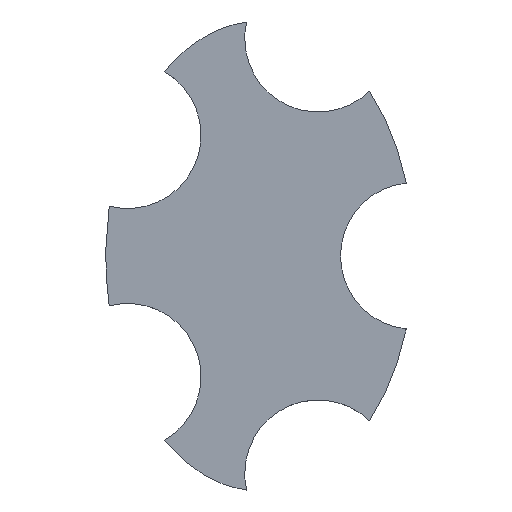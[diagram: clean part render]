
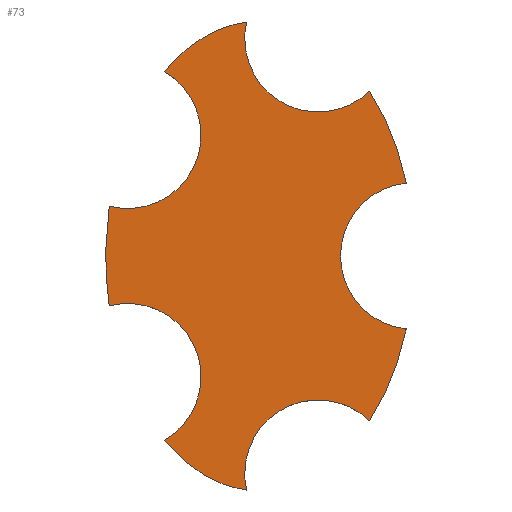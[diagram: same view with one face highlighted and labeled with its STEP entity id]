
A CAD part, top view. The second image highlights one B-rep face of the part: STEP entity #73.
In plain terms, the highlighted planar face has unit normal (0, 0, 1).
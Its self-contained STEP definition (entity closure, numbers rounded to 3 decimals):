
#16 = AXIS2_PLACEMENT_3D ( 'NONE', #384, #435, #436 ) ;
#18 = AXIS2_PLACEMENT_3D ( 'NONE', #239, #238, #237 ) ;
#19 = AXIS2_PLACEMENT_3D ( 'NONE', #148, #147, #146 ) ;
#22 = CIRCLE ( 'NONE', #19, 5. ) ;
#23 = AXIS2_PLACEMENT_3D ( 'NONE', #157, #156, #154 ) ;
#25 = AXIS2_PLACEMENT_3D ( 'NONE', #466, #371, #394 ) ;
#27 = CIRCLE ( 'NONE', #40, 5. ) ;
#28 = CIRCLE ( 'NONE', #23, 5. ) ;
#30 = AXIS2_PLACEMENT_3D ( 'NONE', #342, #341, #339 ) ;
#34 = AXIS2_PLACEMENT_3D ( 'NONE', #186, #185, #184 ) ;
#39 = CIRCLE ( 'NONE', #34, 5. ) ;
#40 = AXIS2_PLACEMENT_3D ( 'NONE', #297, #296, #295 ) ;
#42 = CIRCLE ( 'NONE', #25, 5. ) ;
#45 = CIRCLE ( 'NONE', #18, 5. ) ;
#47 = CIRCLE ( 'NONE', #30, 5. ) ;
#50 = AXIS2_PLACEMENT_3D ( 'NONE', #381, #380, #379 ) ;
#61 = CIRCLE ( 'NONE', #50, 5. ) ;
#73 = ADVANCED_FACE ( 'NONE', ( #168 ), #433, .T. ) ;
#79 = EDGE_CURVE ( 'NONE', #420, #419, #42, .T. ) ;
#84 = EDGE_CURVE ( 'NONE', #393, #153, #61, .T. ) ;
#89 = EDGE_CURVE ( 'NONE', #174, #393, #47, .T. ) ;
#96 = EDGE_CURVE ( 'NONE', #422, #399, #27, .T. ) ;
#113 = ORIENTED_EDGE ( 'NONE', *, *, #96, .F. ) ;
#139 = CARTESIAN_POINT ( 'NONE',  ( -10.261, -3.393, 1. ) ) ;
#141 = CARTESIAN_POINT ( 'NONE',  ( -10.581, -1.148, 1. ) ) ;
#142 = CARTESIAN_POINT ( 'NONE',  ( -10.581, 1.148, 1. ) ) ;
#146 = DIRECTION ( 'NONE',  ( 1., 0., 0. ) ) ;
#147 = DIRECTION ( 'NONE',  ( 0., 0., 1. ) ) ;
#148 = CARTESIAN_POINT ( 'NONE',  ( 3.977, -14.808, 1. ) ) ;
#150 = CARTESIAN_POINT ( 'NONE',  ( -10.261, 3.393, 1. ) ) ;
#151 = ORIENTED_EDGE ( 'NONE', *, *, #515, .T. ) ;
#153 = VERTEX_POINT ( 'NONE', #284 ) ;
#154 = DIRECTION ( 'NONE',  ( 1., 0., 0. ) ) ;
#156 = DIRECTION ( 'NONE',  ( 0., 0., 1. ) ) ;
#157 = CARTESIAN_POINT ( 'NONE',  ( 10.5, 0., 1. ) ) ;
#168 = FACE_OUTER_BOUND ( 'NONE', #417, .T. ) ;
#169 = CARTESIAN_POINT ( 'NONE',  ( 9.98, -4.973, 1. ) ) ;
#170 = CARTESIAN_POINT ( 'NONE',  ( 9.472, -7.338, 1. ) ) ;
#171 = CARTESIAN_POINT ( 'NONE',  ( 8.622, -9.464, 1. ) ) ;
#174 = VERTEX_POINT ( 'NONE', #274 ) ;
#178 = CARTESIAN_POINT ( 'NONE',  ( 7.476, -11.235, 1. ) ) ;
#179 = ORIENTED_EDGE ( 'NONE', *, *, #501, .T. ) ;
#184 = DIRECTION ( 'NONE',  ( 1., 0., 0. ) ) ;
#185 = DIRECTION ( 'NONE',  ( 0., 0., 1. ) ) ;
#186 = CARTESIAN_POINT ( 'NONE',  ( 10.5, 0., 1. ) ) ;
#197 = ORIENTED_EDGE ( 'NONE', *, *, #511, .F. ) ;
#198 = CARTESIAN_POINT ( 'NONE',  ( -6.503, 12.562, 1. ) ) ;
#199 = CARTESIAN_POINT ( 'NONE',  ( -4.878, 14.515, 1. ) ) ;
#200 = CARTESIAN_POINT ( 'NONE',  ( -2.954, 15.674, 1. ) ) ;
#207 = CARTESIAN_POINT ( 'NONE',  ( -0.892, 15.942, 1. ) ) ;
#216 = ORIENTED_EDGE ( 'NONE', *, *, #519, .F. ) ;
#222 = CARTESIAN_POINT ( 'NONE',  ( -0.892, -15.942, 1. ) ) ;
#223 = CARTESIAN_POINT ( 'NONE',  ( -2.954, -15.674, 1. ) ) ;
#225 = CARTESIAN_POINT ( 'NONE',  ( -4.878, -14.515, 1. ) ) ;
#227 = CARTESIAN_POINT ( 'NONE',  ( 7.476, 11.235, 1. ) ) ;
#228 = CARTESIAN_POINT ( 'NONE',  ( 8.622, 9.464, 1. ) ) ;
#229 = CARTESIAN_POINT ( 'NONE',  ( 9.472, 7.338, 1. ) ) ;
#232 = ORIENTED_EDGE ( 'NONE', *, *, #79, .F. ) ;
#237 = DIRECTION ( 'NONE',  ( 1., 0., 0. ) ) ;
#238 = DIRECTION ( 'NONE',  ( 0., 0., 1. ) ) ;
#239 = CARTESIAN_POINT ( 'NONE',  ( -9.004, 8.232, 1. ) ) ;
#240 = CARTESIAN_POINT ( 'NONE',  ( 9.98, 4.973, 1. ) ) ;
#241 = CARTESIAN_POINT ( 'NONE',  ( -6.503, -12.562, 1. ) ) ;
#242 = CARTESIAN_POINT ( 'NONE',  ( -1.023, -14.808, 1. ) ) ;
#243 = CARTESIAN_POINT ( 'NONE',  ( -10.261, -3.393, 1. ) ) ;
#245 = CARTESIAN_POINT ( 'NONE',  ( -6.503, -12.562, 1. ) ) ;
#247 = CARTESIAN_POINT ( 'NONE',  ( -10.261, 3.393, 1. ) ) ;
#249 = CARTESIAN_POINT ( 'NONE',  ( -0.892, -15.942, 1. ) ) ;
#255 = CARTESIAN_POINT ( 'NONE',  ( 9.98, -4.973, 1. ) ) ;
#258 = CARTESIAN_POINT ( 'NONE',  ( -1.023, 14.808, 1. ) ) ;
#260 = ORIENTED_EDGE ( 'NONE', *, *, #500, .T. ) ;
#262 = CARTESIAN_POINT ( 'NONE',  ( -6.503, 12.562, 1. ) ) ;
#263 = CARTESIAN_POINT ( 'NONE',  ( 9.98, 4.973, 1. ) ) ;
#265 = ORIENTED_EDGE ( 'NONE', *, *, #89, .F. ) ;
#267 = CARTESIAN_POINT ( 'NONE',  ( 7.476, -11.235, 1. ) ) ;
#270 = CARTESIAN_POINT ( 'NONE',  ( 5.5, 0., 1. ) ) ;
#274 = CARTESIAN_POINT ( 'NONE',  ( -0.892, 15.942, 1. ) ) ;
#284 = CARTESIAN_POINT ( 'NONE',  ( 7.476, 11.235, 1. ) ) ;
#295 = DIRECTION ( 'NONE',  ( 1., 0., 0. ) ) ;
#296 = DIRECTION ( 'NONE',  ( 0., 0., 1. ) ) ;
#297 = CARTESIAN_POINT ( 'NONE',  ( 3.977, -14.808, 1. ) ) ;
#304 = ORIENTED_EDGE ( 'NONE', *, *, #499, .F. ) ;
#314 = VERTEX_POINT ( 'NONE', #263 ) ;
#339 = DIRECTION ( 'NONE',  ( 1., 0., 0. ) ) ;
#341 = DIRECTION ( 'NONE',  ( 0., 0., 1. ) ) ;
#342 = CARTESIAN_POINT ( 'NONE',  ( 3.977, 14.808, 1. ) ) ;
#371 = DIRECTION ( 'NONE',  ( 0., 0., 1. ) ) ;
#379 = DIRECTION ( 'NONE',  ( 1., 0., 0. ) ) ;
#380 = DIRECTION ( 'NONE',  ( 0., 0., 1. ) ) ;
#381 = CARTESIAN_POINT ( 'NONE',  ( 3.977, 14.808, 1. ) ) ;
#384 = CARTESIAN_POINT ( 'NONE',  ( 0., 0., 1. ) ) ;
#385 = ORIENTED_EDGE ( 'NONE', *, *, #517, .F. ) ;
#388 = VERTEX_POINT ( 'NONE', #270 ) ;
#391 = VERTEX_POINT ( 'NONE', #262 ) ;
#392 = VERTEX_POINT ( 'NONE', #267 ) ;
#393 = VERTEX_POINT ( 'NONE', #258 ) ;
#394 = DIRECTION ( 'NONE',  ( 1., 0., 0. ) ) ;
#398 = VERTEX_POINT ( 'NONE', #255 ) ;
#399 = VERTEX_POINT ( 'NONE', #249 ) ;
#401 = VERTEX_POINT ( 'NONE', #247 ) ;
#405 = ORIENTED_EDGE ( 'NONE', *, *, #84, .F. ) ;
#416 = ORIENTED_EDGE ( 'NONE', *, *, #521, .T. ) ;
#417 = EDGE_LOOP ( 'NONE', ( #179, #113, #216, #151, #385, #197, #260, #405, #265, #463, #304, #416, #232 ) ) ;
#419 = VERTEX_POINT ( 'NONE', #243 ) ;
#420 = VERTEX_POINT ( 'NONE', #245 ) ;
#422 = VERTEX_POINT ( 'NONE', #242 ) ;
#433 = PLANE ( 'NONE',  #16 ) ;
#435 = DIRECTION ( 'NONE',  ( 0., 0., 1. ) ) ;
#436 = DIRECTION ( 'NONE',  ( 1., 0., 0. ) ) ;
#463 = ORIENTED_EDGE ( 'NONE', *, *, #508, .T. ) ;
#466 = CARTESIAN_POINT ( 'NONE',  ( -9.004, -8.232, 1. ) ) ;
#499 = EDGE_CURVE ( 'NONE', #401, #391, #45, .T. ) ;
#500 = EDGE_CURVE ( 'NONE', #314, #153, #540, .T. ) ;
#501 = EDGE_CURVE ( 'NONE', #420, #399, #538, .T. ) ;
#508 = EDGE_CURVE ( 'NONE', #174, #391, #527, .T. ) ;
#511 = EDGE_CURVE ( 'NONE', #314, #388, #39, .T. ) ;
#515 = EDGE_CURVE ( 'NONE', #392, #398, #528, .T. ) ;
#517 = EDGE_CURVE ( 'NONE', #388, #398, #28, .T. ) ;
#519 = EDGE_CURVE ( 'NONE', #392, #422, #22, .T. ) ;
#521 = EDGE_CURVE ( 'NONE', #401, #419, #530, .T. ) ;
#527 =( BOUNDED_CURVE ( )  B_SPLINE_CURVE ( 3, ( #207, #200, #199, #198 ),
 .UNSPECIFIED., .F., .T. ) 
 B_SPLINE_CURVE_WITH_KNOTS ( ( 4, 4 ),
 ( 0.085, 0.668 ),
 .UNSPECIFIED. ) 
 CURVE ( )  GEOMETRIC_REPRESENTATION_ITEM ( )  RATIONAL_B_SPLINE_CURVE ( ( 1., 0.972, 0.972, 1. ) ) 
 REPRESENTATION_ITEM ( '' )  );
#528 =( BOUNDED_CURVE ( )  B_SPLINE_CURVE ( 3, ( #178, #171, #170, #169 ),
 .UNSPECIFIED., .F., .T. ) 
 B_SPLINE_CURVE_WITH_KNOTS ( ( 4, 4 ),
 ( 3.934, 4.396 ),
 .UNSPECIFIED. ) 
 CURVE ( )  GEOMETRIC_REPRESENTATION_ITEM ( )  RATIONAL_B_SPLINE_CURVE ( ( 1., 0.982, 0.982, 1. ) ) 
 REPRESENTATION_ITEM ( '' )  );
#530 =( BOUNDED_CURVE ( )  B_SPLINE_CURVE ( 3, ( #150, #142, #141, #139 ),
 .UNSPECIFIED., .F., .T. ) 
 B_SPLINE_CURVE_WITH_KNOTS ( ( 4, 4 ),
 ( 1.357, 1.784 ),
 .UNSPECIFIED. ) 
 CURVE ( )  GEOMETRIC_REPRESENTATION_ITEM ( )  RATIONAL_B_SPLINE_CURVE ( ( 1., 0.985, 0.985, 1. ) ) 
 REPRESENTATION_ITEM ( '' )  );
#538 =( BOUNDED_CURVE ( )  B_SPLINE_CURVE ( 3, ( #241, #225, #223, #222 ),
 .UNSPECIFIED., .F., .T. ) 
 B_SPLINE_CURVE_WITH_KNOTS ( ( 4, 4 ),
 ( 2.474, 3.056 ),
 .UNSPECIFIED. ) 
 CURVE ( )  GEOMETRIC_REPRESENTATION_ITEM ( )  RATIONAL_B_SPLINE_CURVE ( ( 1., 0.972, 0.972, 1. ) ) 
 REPRESENTATION_ITEM ( '' )  );
#540 =( BOUNDED_CURVE ( )  B_SPLINE_CURVE ( 3, ( #240, #229, #228, #227 ),
 .UNSPECIFIED., .F., .T. ) 
 B_SPLINE_CURVE_WITH_KNOTS ( ( 4, 4 ),
 ( 5.028, 5.491 ),
 .UNSPECIFIED. ) 
 CURVE ( )  GEOMETRIC_REPRESENTATION_ITEM ( )  RATIONAL_B_SPLINE_CURVE ( ( 1., 0.982, 0.982, 1. ) ) 
 REPRESENTATION_ITEM ( '' )  );
